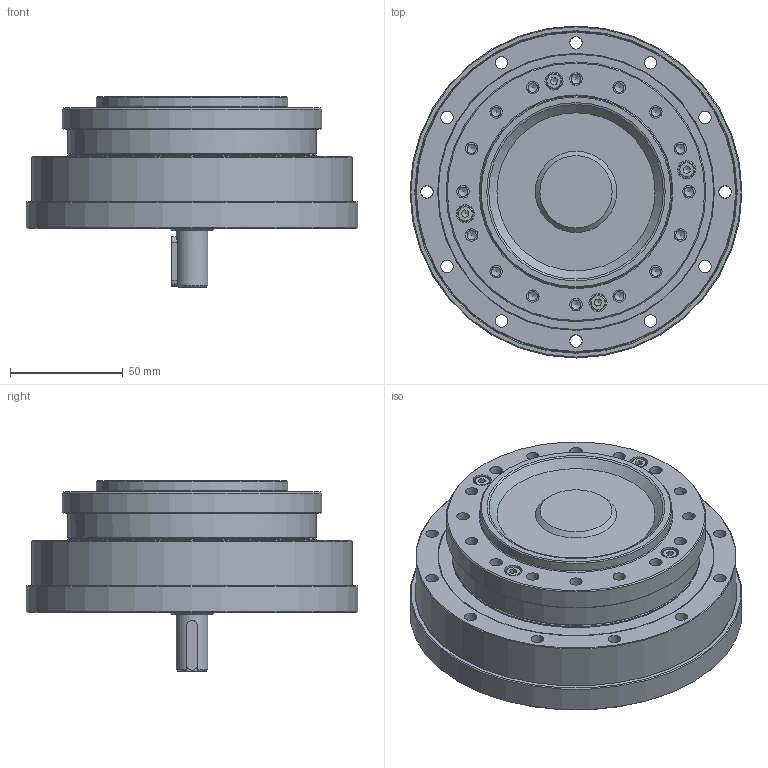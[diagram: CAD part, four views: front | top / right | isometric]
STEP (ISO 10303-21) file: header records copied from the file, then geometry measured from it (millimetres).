
FILE_DESCRIPTION(/* description */ (''),/* implementation_level */ '2;1');
FILE_NAME(/* name */ 'S:\TB00F\研發課二組\機密級\97.\X2\540C4EC151714EAB5340\X0\ (機密級)\H11\欣怡\2023專案追蹤\2.型錄\模型\\X2\5B987DB2\X0\3D檔(NEW)\DGH-AJ\DGH-32-XX-AJ.stp',/* time_stamp */ '2024-09-18T10:40:33+08:00',/* author */ ('bb1128.zheng'),/* organization */ (''),/* preprocessor_version */ 'ST-DEVELOPER v15.2',/* originating_system */ 'Autodesk Inventor 2014',/* authorisation */ '');
FILE_SCHEMA (('AUTOMOTIVE_DESIGN { 1 0 10303 214 3 1 1 }'));
Length unit declared in the file: centimetre
Products named in the file (1): DGH-32-XX-AJ.
Bounding box: 147 x 147 x 84.5 mm (x, y, z)
Volume: 729326.6 mm3; surface area: 81832.3 mm2
Topology: 1 solids, 22 shells, 472 faces, 1030 edges, 675 vertices
Faces by surface type: plane 175, cylinder 148, cone 132, torus 17
Full cylindrical faces by diameter (mm): 3.242 x8, 4 x8, 4.134 x17, 4.5 x12, 5.5 x68, 7 x4, 7.6 x4, 8 x8, 14 x1, 85 x1, 92.253 x2, 110 x3, 115 x1, 122 x1, 142 x3, 147 x1
Entity records: 10500 total; most frequent: DIRECTION 1903, CARTESIAN_POINT 1708, ORIENTED_EDGE 1182, AXIS2_PLACEMENT_3D 891, EDGE_LOOP 885, EDGE_CURVE 591, VERTEX_POINT 526, FACE_BOUND 478
